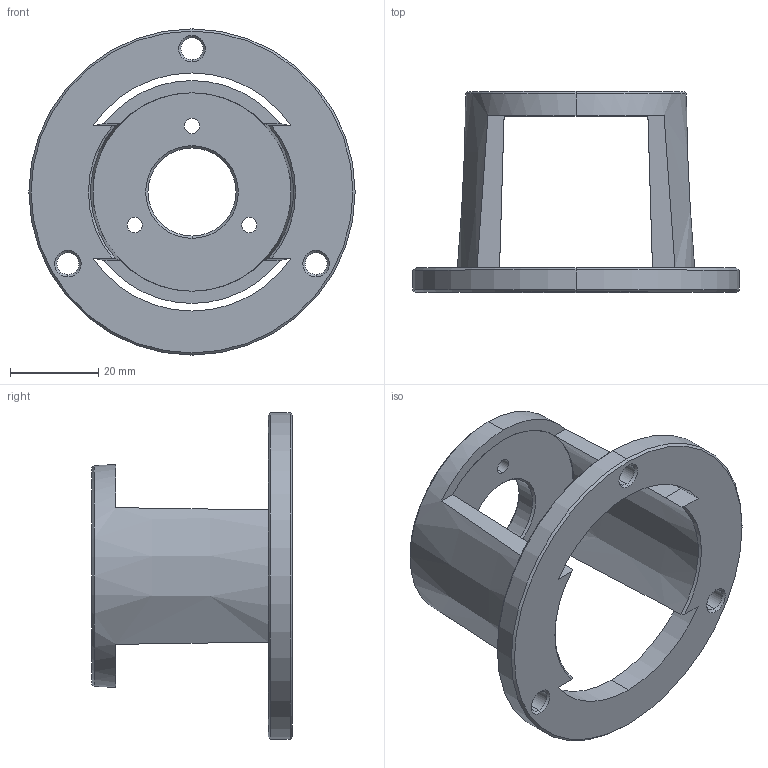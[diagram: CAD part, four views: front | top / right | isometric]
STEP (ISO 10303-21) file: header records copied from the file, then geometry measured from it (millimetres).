
FILE_DESCRIPTION (( 'STEP AP214' ), '1' );
FILE_NAME ('晤鎢ん揤翉璃20.STEP', '2022-11-21T08:14:44', ( '' ), ( '' ), 'SwSTEP 2.0', 'SolidWorks 2022', '' );
FILE_SCHEMA (( 'AUTOMOTIVE_DESIGN' ));
Length unit declared in the file: millimetre
Products named in the file (1): 晤鎢ん揤翉璃20
Bounding box: 74 x 45.5 x 74 mm (x, y, z)
Volume: 28598.3 mm3; surface area: 16147.8 mm2
Topology: 1 solids, 1 shells, 69 faces, 167 edges, 98 vertices
Faces by surface type: cone 34, cylinder 21, plane 14
Entity records: 2089 total; most frequent: CARTESIAN_POINT 383, DIRECTION 377, ORIENTED_EDGE 334, EDGE_CURVE 167, AXIS2_PLACEMENT_3D 156, VERTEX_POINT 98, CIRCLE 86, EDGE_LOOP 85
